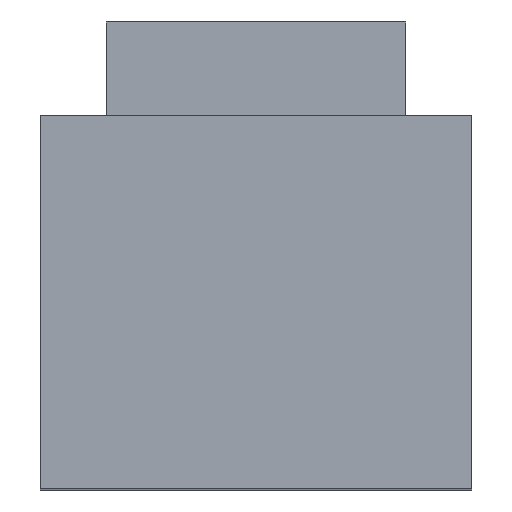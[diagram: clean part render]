
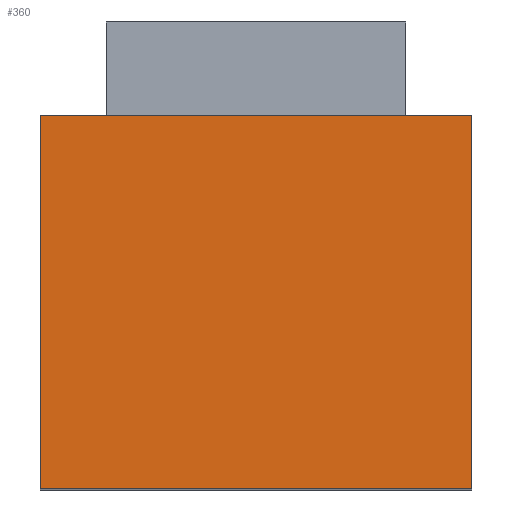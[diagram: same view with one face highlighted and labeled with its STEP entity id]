
A CAD part, top view. The second image highlights one B-rep face of the part: STEP entity #360.
In plain terms, the highlighted planar face has unit normal (0, 0, 1).
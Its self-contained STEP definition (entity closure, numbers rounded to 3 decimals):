
#46 = VERTEX_POINT('',#47);
#47 = CARTESIAN_POINT('',(-1.95,-4.8,10.9));
#54 = PLANE('',#55);
#55 = AXIS2_PLACEMENT_3D('',#56,#57,#58);
#56 = CARTESIAN_POINT('',(-1.95,-4.8,0.));
#57 = DIRECTION('',(1.,0.,-0.));
#58 = DIRECTION('',(0.,0.,1.));
#66 = PLANE('',#67);
#67 = AXIS2_PLACEMENT_3D('',#68,#69,#70);
#68 = CARTESIAN_POINT('',(-1.95,-4.8,0.));
#69 = DIRECTION('',(-0.,1.,0.));
#70 = DIRECTION('',(0.,0.,1.));
#107 = VERTEX_POINT('',#108);
#108 = CARTESIAN_POINT('',(-1.95,2.,10.9));
#122 = PLANE('',#123);
#123 = AXIS2_PLACEMENT_3D('',#124,#125,#126);
#124 = CARTESIAN_POINT('',(-1.95,2.,0.));
#125 = DIRECTION('',(-0.,1.,0.));
#126 = DIRECTION('',(0.,0.,1.));
#134 = EDGE_CURVE('',#46,#107,#135,.T.);
#135 = SURFACE_CURVE('',#136,(#140,#147),.PCURVE_S1.);
#136 = LINE('',#137,#138);
#137 = CARTESIAN_POINT('',(-1.95,-4.8,10.9));
#138 = VECTOR('',#139,1.);
#139 = DIRECTION('',(-0.,1.,0.));
#140 = PCURVE('',#54,#141);
#141 = DEFINITIONAL_REPRESENTATION('',(#142),#146);
#142 = LINE('',#143,#144);
#143 = CARTESIAN_POINT('',(10.9,0.));
#144 = VECTOR('',#145,1.);
#145 = DIRECTION('',(0.,-1.));
#146 = ( GEOMETRIC_REPRESENTATION_CONTEXT(2) 
PARAMETRIC_REPRESENTATION_CONTEXT() REPRESENTATION_CONTEXT('2D SPACE',''
  ) );
#147 = PCURVE('',#148,#153);
#148 = PLANE('',#149);
#149 = AXIS2_PLACEMENT_3D('',#150,#151,#152);
#150 = CARTESIAN_POINT('',(-1.95,-4.8,10.9));
#151 = DIRECTION('',(0.,0.,1.));
#152 = DIRECTION('',(1.,0.,-0.));
#153 = DEFINITIONAL_REPRESENTATION('',(#154),#158);
#154 = LINE('',#155,#156);
#155 = CARTESIAN_POINT('',(0.,0.));
#156 = VECTOR('',#157,1.);
#157 = DIRECTION('',(0.,1.));
#158 = ( GEOMETRIC_REPRESENTATION_CONTEXT(2) 
PARAMETRIC_REPRESENTATION_CONTEXT() REPRESENTATION_CONTEXT('2D SPACE',''
  ) );
#166 = VERTEX_POINT('',#167);
#167 = CARTESIAN_POINT('',(5.91,-4.8,10.9));
#174 = PLANE('',#175);
#175 = AXIS2_PLACEMENT_3D('',#176,#177,#178);
#176 = CARTESIAN_POINT('',(5.91,-4.8,0.));
#177 = DIRECTION('',(1.,0.,-0.));
#178 = DIRECTION('',(0.,0.,1.));
#217 = VERTEX_POINT('',#218);
#218 = CARTESIAN_POINT('',(5.91,2.,10.9));
#239 = EDGE_CURVE('',#166,#217,#240,.T.);
#240 = SURFACE_CURVE('',#241,(#245,#252),.PCURVE_S1.);
#241 = LINE('',#242,#243);
#242 = CARTESIAN_POINT('',(5.91,-4.8,10.9));
#243 = VECTOR('',#244,1.);
#244 = DIRECTION('',(-0.,1.,0.));
#245 = PCURVE('',#174,#246);
#246 = DEFINITIONAL_REPRESENTATION('',(#247),#251);
#247 = LINE('',#248,#249);
#248 = CARTESIAN_POINT('',(10.9,0.));
#249 = VECTOR('',#250,1.);
#250 = DIRECTION('',(0.,-1.));
#251 = ( GEOMETRIC_REPRESENTATION_CONTEXT(2) 
PARAMETRIC_REPRESENTATION_CONTEXT() REPRESENTATION_CONTEXT('2D SPACE',''
  ) );
#252 = PCURVE('',#148,#253);
#253 = DEFINITIONAL_REPRESENTATION('',(#254),#258);
#254 = LINE('',#255,#256);
#255 = CARTESIAN_POINT('',(7.86,0.));
#256 = VECTOR('',#257,1.);
#257 = DIRECTION('',(0.,1.));
#258 = ( GEOMETRIC_REPRESENTATION_CONTEXT(2) 
PARAMETRIC_REPRESENTATION_CONTEXT() REPRESENTATION_CONTEXT('2D SPACE',''
  ) );
#285 = EDGE_CURVE('',#46,#166,#286,.T.);
#286 = SURFACE_CURVE('',#287,(#291,#298),.PCURVE_S1.);
#287 = LINE('',#288,#289);
#288 = CARTESIAN_POINT('',(-1.95,-4.8,10.9));
#289 = VECTOR('',#290,1.);
#290 = DIRECTION('',(1.,0.,-0.));
#291 = PCURVE('',#66,#292);
#292 = DEFINITIONAL_REPRESENTATION('',(#293),#297);
#293 = LINE('',#294,#295);
#294 = CARTESIAN_POINT('',(10.9,0.));
#295 = VECTOR('',#296,1.);
#296 = DIRECTION('',(0.,1.));
#297 = ( GEOMETRIC_REPRESENTATION_CONTEXT(2) 
PARAMETRIC_REPRESENTATION_CONTEXT() REPRESENTATION_CONTEXT('2D SPACE',''
  ) );
#298 = PCURVE('',#148,#299);
#299 = DEFINITIONAL_REPRESENTATION('',(#300),#304);
#300 = LINE('',#301,#302);
#301 = CARTESIAN_POINT('',(0.,0.));
#302 = VECTOR('',#303,1.);
#303 = DIRECTION('',(1.,0.));
#304 = ( GEOMETRIC_REPRESENTATION_CONTEXT(2) 
PARAMETRIC_REPRESENTATION_CONTEXT() REPRESENTATION_CONTEXT('2D SPACE',''
  ) );
#332 = EDGE_CURVE('',#107,#217,#333,.T.);
#333 = SURFACE_CURVE('',#334,(#338,#345),.PCURVE_S1.);
#334 = LINE('',#335,#336);
#335 = CARTESIAN_POINT('',(-1.95,2.,10.9));
#336 = VECTOR('',#337,1.);
#337 = DIRECTION('',(1.,0.,-0.));
#338 = PCURVE('',#122,#339);
#339 = DEFINITIONAL_REPRESENTATION('',(#340),#344);
#340 = LINE('',#341,#342);
#341 = CARTESIAN_POINT('',(10.9,0.));
#342 = VECTOR('',#343,1.);
#343 = DIRECTION('',(0.,1.));
#344 = ( GEOMETRIC_REPRESENTATION_CONTEXT(2) 
PARAMETRIC_REPRESENTATION_CONTEXT() REPRESENTATION_CONTEXT('2D SPACE',''
  ) );
#345 = PCURVE('',#148,#346);
#346 = DEFINITIONAL_REPRESENTATION('',(#347),#351);
#347 = LINE('',#348,#349);
#348 = CARTESIAN_POINT('',(0.,6.8));
#349 = VECTOR('',#350,1.);
#350 = DIRECTION('',(1.,0.));
#351 = ( GEOMETRIC_REPRESENTATION_CONTEXT(2) 
PARAMETRIC_REPRESENTATION_CONTEXT() REPRESENTATION_CONTEXT('2D SPACE',''
  ) );
#360 = ADVANCED_FACE('',(#361),#148,.T.);
#361 = FACE_BOUND('',#362,.T.);
#362 = EDGE_LOOP('',(#363,#364,#365,#366));
#363 = ORIENTED_EDGE('',*,*,#134,.F.);
#364 = ORIENTED_EDGE('',*,*,#285,.T.);
#365 = ORIENTED_EDGE('',*,*,#239,.T.);
#366 = ORIENTED_EDGE('',*,*,#332,.F.);
